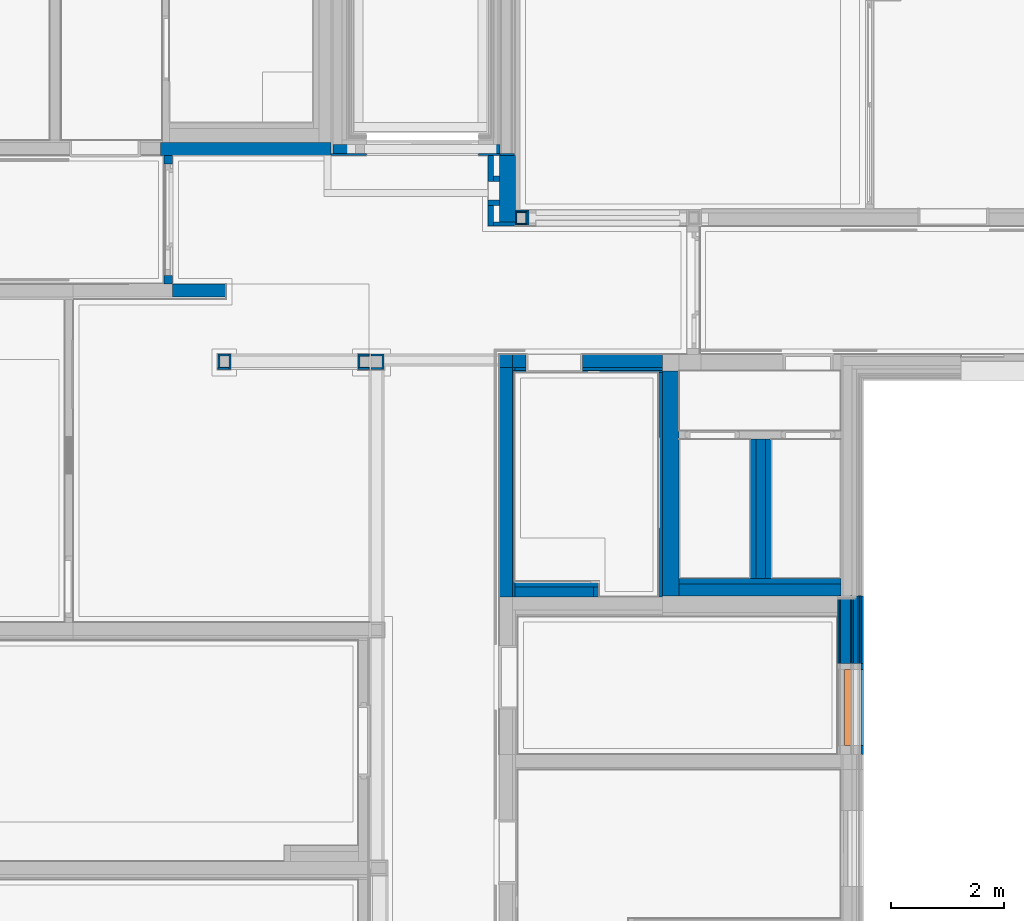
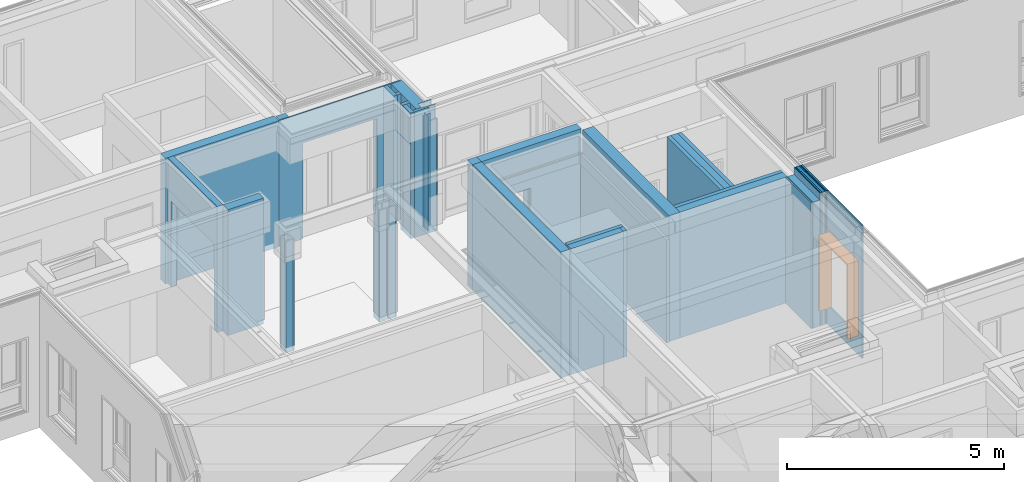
# One storey, part 29 of 222: 55 walls, 1 proxy, 7 openings.
"""IFC4 building model written with IfcOpenShell, lengths in metres."""

from ifc_helpers import new_model, entity, si_unit, converted_unit, derived_unit, frame, frame_2d, origin, origin_with_axes, place, context, subcontext, project, spatial, polyline, rectangle, outline, extrude, clip, bounded_halfspace, faceted_brep, material, element, fill, save


model = new_model("IFC4")

# Units and contexts
model_context = context("Model", 3, precision=1e-05, world=origin())
body_context = subcontext(model_context, "Body", "Model", "MODEL_VIEW")
ifc_project = project(units=[si_unit("LENGTHUNIT", "METRE"), si_unit("AREAUNIT", "SQUARE_METRE"), si_unit("VOLUMEUNIT", "CUBIC_METRE"), si_unit("MASSUNIT", "GRAM", prefix="KILO"), converted_unit("PLANEANGLEUNIT", "DEGREE", entity("IfcPlaneAngleMeasure", 0.0174532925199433), si_unit("PLANEANGLEUNIT", "RADIAN"), dimensions=[0, 0, 0, 0, 0, 0, 0]), derived_unit("THERMALTRANSMITTANCEUNIT", [(si_unit("POWERUNIT", "WATT"), 1), (si_unit("THERMODYNAMICTEMPERATUREUNIT", "KELVIN"), -1), (si_unit("LENGTHUNIT", "METRE"), -2)]), derived_unit("VOLUMETRICFLOWRATEUNIT", [(si_unit("LENGTHUNIT", "METRE"), 3), (converted_unit("TIMEUNIT", "hour", entity("IfcTimeMeasure", 3600.0), si_unit("TIMEUNIT", "SECOND"), dimensions=[0, 0, 1, 0, 0, 0, 0]), -1), (si_unit("LENGTHUNIT", "METRE"), -1)])], contexts=[model_context])

# Site, building, storey
site_placement = place(None, origin())
site = spatial("IfcSite", under=ifc_project, at=site_placement, Name="Psychiatrie Neubau Wunstorf", CompositionType="ELEMENT")
building_placement = place(site_placement, origin())
building = spatial("IfcBuilding", under=site, at=building_placement, Name="Neubau H2 Stationsgebäude", CompositionType="ELEMENT")
storey_placement = place(building_placement, frame((0.0, 0.0, 3.6)))
storey = spatial("IfcBuildingStorey", under=building, at=storey_placement, Name="H2 Ebene +1", CompositionType="ELEMENT", Elevation=3.6)

# Wall
ifc_material_1 = material(Name="WA-LB")
wall_1_placement = place(storey_placement, frame((37.8935, 24.1140036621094, 0.5)))
element("IfcWall", 1, at=wall_1_placement, inside=storey, material=ifc_material_1, Name="2x Gipsfaserplatte", context=body_context, shape_type="SweptSolid", body=[
    extrude(rectangle(XDim=0.254, YDim=0.036, at=frame_2d((0.127, 0.018), x_axis=(1.0, 0.0))), origin_with_axes(), (0.0, 0.0, 1.0), 3.05),
])

# Wall, opening
ifc_material_2 = material(Name="WA-LB")
wall_2_placement = place(storey_placement, frame((34.889, 24.1140036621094, 0.0)))
wall_2 = element("IfcWall", 2, at=wall_2_placement, inside=storey, material=ifc_material_2, Name="2x Gipsfaserplatte", context=body_context, shape_type="SweptSolid", body=[
    extrude(rectangle(XDim=3.0045, YDim=0.036, at=frame_2d((1.50225, 0.018), x_axis=(1.0, 0.0))), origin_with_axes(), (0.0, 0.0, 1.0), 3.55),
])
opening_1_placement = place(wall_2_placement, frame((0.637001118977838, 0.0, 0.0), z_axis=(0.0, 1.0, 0.0), x_axis=(0.0, 0.0, 1.0)))
element("IfcOpeningElement", 3, at=opening_1_placement, cuts=wall_2, Name="Türöffnung", ObjectType="Opening", context=body_context, shape_type="SweptSolid", body=[
    extrude(outline(polyline([(2.7, 1.98299888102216), (2.7, 0.0), (0.0, 0.0), (0.0, 1.98299888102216), (2.7, 1.98299888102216)])), origin_with_axes(), (0.0, 0.0, 1.0), 0.036),
])

ifc_material_3 = material(Name="WA-HD")
wall_3_placement = place(storey_placement, frame((34.925, 24.1500036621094, 0.0)))
wall_3 = element("IfcWall", 4, at=wall_3_placement, inside=storey, material=ifc_material_3, Name="Holzständer + Zwischendämmung", context=body_context, shape_type="Clipping", body=[
    clip(clip(clip(extrude(rectangle(XDim=2.9685, YDim=0.16, at=frame_2d((1.48425, 0.08), x_axis=(1.0, 0.0))), origin_with_axes(), (0.0, 0.0, 1.0), 3.55), bounded_halfspace(frame((0.327500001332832, 0.0799997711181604, 3.15), z_axis=(0.0, 0.0, -1.0), x_axis=(-0.999999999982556, -5.90662815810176e-06, 0.0)), True, origin_with_axes(), polyline([(0.405, 0.16), (0.250000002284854, 0.159999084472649), (0.250000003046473, 0.0), (0.405, 0.0), (0.405, 0.16)]))), bounded_halfspace(frame((1.76675, 0.08, 3.15), z_axis=(0.0, 0.0, -1.0), x_axis=(1.0, 0.0, 0.0)), True, origin_with_axes(), polyline([(0.565, 0.0), (2.9685, 0.0), (2.9685, 0.16), (0.565, 0.16), (0.565, 0.0)]))), bounded_halfspace(frame((0.485, 0.08, 0.5), z_axis=(0.0, 0.0, -1.0), x_axis=(0.0, -1.0, 0.0)), True, origin_with_axes(), polyline([(0.405, 0.16), (0.405, 0.0), (0.565, 0.0), (0.565, 0.16), (0.405, 0.16)]))),
])
opening_2_placement = place(wall_3_placement, frame((0.601001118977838, 0.0, 0.0), z_axis=(0.0, 1.0, 0.0), x_axis=(0.0, 0.0, 1.0)))
element("IfcOpeningElement", 5, at=opening_2_placement, cuts=wall_3, Name="Türöffnung", ObjectType="Opening", context=body_context, shape_type="SweptSolid", body=[
    extrude(outline(polyline([(2.7, 1.98299888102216), (2.7, 0.0), (0.0, 0.0), (0.0, 1.98299888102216), (2.7, 1.98299888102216)])), origin_with_axes(), (0.0, 0.0, 1.0), 0.16),
])

# Walls
ifc_material_4 = material(Name="WA-LB")
wall_4_placement = place(storey_placement, frame((43.8800000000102, 16.3005060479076, 0.0), z_axis=(0.0, 0.0, 1.0), x_axis=(0.0, -1.0, 0.0)))
element("IfcWall", 6, at=wall_4_placement, inside=storey, material=ifc_material_4, Name="2x Gipsfaserplatte", context=body_context, shape_type="SweptSolid", body=[
    extrude(rectangle(XDim=1.19550635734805, YDim=0.036, at=frame_2d((0.597753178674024, 0.018), x_axis=(1.0, 0.0))), origin_with_axes(), (0.0, 0.0, 1.0), 3.55),
])
ifc_material_5 = material(Name="WA-LB")
wall_5_placement = place(storey_placement, frame((43.9160000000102, 16.3005060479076, 0.0), z_axis=(0.0, 0.0, 1.0), x_axis=(0.0, -1.0, 0.0)))
element("IfcWall", 7, at=wall_5_placement, inside=storey, material=ifc_material_5, Name="2x Gipsfaserplatte", context=body_context, shape_type="SweptSolid", body=[
    extrude(rectangle(XDim=1.19550635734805, YDim=0.018, at=frame_2d((0.597753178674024, 0.009), x_axis=(1.0, 0.0))), origin_with_axes(), (0.0, 0.0, 1.0), 3.55),
])
ifc_material_6 = material(Name="WA-DL")
wall_6_placement = place(storey_placement, frame((43.9340000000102, 16.3005060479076, 0.0), z_axis=(0.0, 0.0, 1.0), x_axis=(0.0, -1.0, 0.0)))
element("IfcWall", 8, at=wall_6_placement, inside=storey, material=ifc_material_6, Name="Holzständer + Zwischendämmung", context=body_context, shape_type="SweptSolid", body=[
    extrude(rectangle(XDim=1.19550635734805, YDim=0.18, at=frame_2d((0.597753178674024, 0.09), x_axis=(1.0, 0.0))), origin_with_axes(), (0.0, 0.0, 1.0), 3.55),
])
ifc_material_7 = material(Name="WA-LB")
wall_7_placement = place(storey_placement, frame((44.1140000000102, 16.3005060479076, 0.0), z_axis=(0.0, 0.0, 1.0), x_axis=(0.0, -1.0, 0.0)))
element("IfcWall", 9, at=wall_7_placement, inside=storey, material=ifc_material_7, context=body_context, shape_type="SweptSolid", body=[
    extrude(rectangle(XDim=1.19550635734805, YDim=0.019, at=frame_2d((0.597753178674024, 0.0095), x_axis=(1.0, 0.0))), origin_with_axes(), (0.0, 0.0, 1.0), 3.75),
])
ifc_material_8 = material(Name="WA-LB")
wall_8_placement = place(storey_placement, frame((44.1330000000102, 16.3005060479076, 0.0), z_axis=(0.0, 0.0, 1.0), x_axis=(0.0, -1.0, 0.0)))
element("IfcWall", 10, at=wall_8_placement, inside=storey, material=ifc_material_8, context=body_context, shape_type="SweptSolid", body=[
    extrude(rectangle(XDim=1.19550635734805, YDim=0.036, at=frame_2d((0.597753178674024, 0.018), x_axis=(1.0, 0.0))), origin_with_axes(), (0.0, 0.0, 1.0), 3.75),
])
ifc_material_9 = material(Name="WA-DL")
wall_9_placement = place(storey_placement, frame((44.1690000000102, 16.3005060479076, 0.0), z_axis=(0.0, 0.0, 1.0), x_axis=(0.0, -1.0, 0.0)))
element("IfcWall", 11, at=wall_9_placement, inside=storey, material=ifc_material_9, Name="Staffel + Zwischendämmung", context=body_context, shape_type="SweptSolid", body=[
    extrude(rectangle(XDim=1.19550635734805, YDim=0.08, at=frame_2d((0.597753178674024, 0.04), x_axis=(1.0, 0.0))), origin_with_axes(), (0.0, 0.0, 1.0), 3.75),
])
ifc_material_10 = material(Name="WA-KL")
wall_10_placement = place(storey_placement, frame((44.2490000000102, 16.3005060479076, 0.0), z_axis=(0.0, 0.0, 1.0), x_axis=(0.0, -1.0, 0.0)))
element("IfcWall", 12, at=wall_10_placement, inside=storey, material=ifc_material_10, Name="Konterlattung", context=body_context, shape_type="SweptSolid", body=[
    extrude(rectangle(XDim=1.19550635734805, YDim=0.025, at=frame_2d((0.597753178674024, 0.0125), x_axis=(1.0, 0.0))), origin_with_axes(), (0.0, 0.0, 1.0), 3.75),
])
ifc_material_11 = material(Name="WA-TL")
wall_11_placement = place(storey_placement, frame((44.2740000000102, 16.3005060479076, 0.0), z_axis=(0.0, 0.0, 1.0), x_axis=(0.0, -1.0, 0.0)))
element("IfcWall", 13, at=wall_11_placement, inside=storey, material=ifc_material_11, Name="Traglattung", context=body_context, shape_type="SweptSolid", body=[
    extrude(rectangle(XDim=1.19550635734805, YDim=0.025, at=frame_2d((0.597753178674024, 0.0125), x_axis=(1.0, 0.0))), origin_with_axes(), (0.0, 0.0, 1.0), 3.75),
])
ifc_material_12 = material(Name="WA-HS")
wall_12_placement = place(storey_placement, frame((44.2990000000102, 16.3005060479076, 0.0), z_axis=(0.0, 0.0, 1.0), x_axis=(0.0, -1.0, 0.0)))
element("IfcWall", 14, at=wall_12_placement, inside=storey, material=ifc_material_12, Name="Holzschindel", context=body_context, shape_type="SweptSolid", body=[
    extrude(rectangle(XDim=1.19550635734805, YDim=0.042, at=frame_2d((0.597753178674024, 0.021), x_axis=(1.0, 0.0))), origin_with_axes(), (0.0, 0.0, 1.0), 3.75),
])

# Wall, opening, proxy
ifc_material_13 = material(Name="WA-HS")
wall_13_placement = place(storey_placement, frame((44.2990000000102, 15.1049996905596, 0.0), z_axis=(0.0, 0.0, 1.0), x_axis=(0.0, -1.0, 0.0)))
wall_13 = element("IfcWall", 15, at=wall_13_placement, inside=storey, material=ifc_material_13, Name="Holzschindel", context=body_context, shape_type="SweptSolid", body=[
    extrude(rectangle(XDim=1.6155030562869, YDim=0.042, at=frame_2d((0.80775152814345, 0.021), x_axis=(1.0, 0.0))), origin_with_axes(), (0.0, 0.0, 1.0), 3.75),
])
opening_3_placement = place(wall_13_placement, frame((1.46000029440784, 0.042, 0.55), z_axis=(0.0, -1.0, 0.0), x_axis=(0.0, 0.0, 1.0)))
opening_3 = element("IfcOpeningElement", 16, at=opening_3_placement, cuts=wall_13, Name="Fensteröffnung", ObjectType="Opening", context=body_context, shape_type="SweptSolid", body=[
    extrude(outline(polyline([(2.115, 1.35), (2.115, 0.0), (0.0, 0.0), (0.0, 1.35), (2.115, 1.35)])), origin_with_axes(), (0.0, 0.0, 1.0), 0.042),
])
ifc_material_14 = material(Name="WA-HS")
proxy_placement = place(opening_3_placement, frame((0.0, 0.0, 0.335)))
proxy = element("IfcBuildingElementProxy", 17, at=proxy_placement, inside=storey, material=ifc_material_14, context=body_context, shape_type="Brep", body=[
    faceted_brep([(0.0, 1.35, 0.0), (0.0, 1.35, -0.335), (2.115, 1.35, -0.335), (2.115, 1.35, 0.0), (2.115, 0.0, -0.335), (2.115, 0.0, 0.0), (0.0, 1.3, -0.335), (0.0, 1.3, 0.0), (0.0, 0.0, 0.0), (0.0, 0.05, 0.0), (2.065, 0.05, 0.0), (2.065, 1.3, 0.0), (2.065, 1.3, -0.335), (2.065, 0.05, -0.335), (0.0, 0.05, -0.335), (0.0, 0.0, -0.335)], [[[0, 1, 2, 3]], [[2, 4, 5, 3]], [[6, 1, 0, 7]], [[7, 0, 3, 5, 8, 9, 10, 11]], [[1, 6, 12, 13, 14, 15, 4, 2]], [[6, 7, 11, 12]], [[15, 8, 5, 4]], [[15, 14, 9, 8]], [[9, 14, 13, 10]], [[10, 13, 12, 11]]], orient=[[False], [False], [False], [False], [False], [False], [False], [False], [False], [False]]),
])
fill(opening_3, proxy)

# Walls
ifc_material_15 = material(Name="WI-HW 60")
wall_14_placement = place(storey_placement, frame((37.879, 24.1140036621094, 0.0), z_axis=(0.0, 0.0, 1.0), x_axis=(0.0, -1.0, 0.0)))
element("IfcWall", 18, at=wall_14_placement, inside=storey, material=ifc_material_15, context=body_context, shape_type="Clipping", body=[
    clip(extrude(rectangle(XDim=1.17550367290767, YDim=0.29, at=frame_2d((0.587751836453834, 0.145), x_axis=(1.0, 0.0))), origin_with_axes(), (0.0, 0.0, 1.0), 3.55), bounded_halfspace(frame((1.09525235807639, 0.208000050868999, 3.25), z_axis=(0.0, 0.0, -1.0), x_axis=(0.0, 1.0, 0.0)), True, origin_with_axes(), polyline([(1.17550367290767, 0.126000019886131), (1.17550367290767, 0.29), (1.01500112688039, 0.29), (1.01500095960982, 0.126000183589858), (1.17550367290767, 0.126000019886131)]))),
])
ifc_material_16 = material(Name="WI-HW 60")
wall_15_placement = place(storey_placement, frame((40.7790000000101, 20.2959980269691, 0.0), z_axis=(0.0, 0.0, 1.0), x_axis=(0.0, -1.0, 0.0)))
element("IfcWall", 19, at=wall_15_placement, inside=storey, material=ifc_material_16, context=body_context, shape_type="SweptSolid", body=[
    extrude(rectangle(XDim=3.99549197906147, YDim=0.29, at=frame_2d((1.99774598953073, 0.145), x_axis=(1.0, 0.0))), origin_with_axes(), (0.0, 0.0, 1.0), 3.55),
])

# Wall, opening
ifc_material_17 = material(Name="WI-LB")
wall_16_placement = place(storey_placement, frame((38.1145, 20.2639980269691, 0.0)))
wall_16 = element("IfcWall", 20, at=wall_16_placement, inside=storey, material=ifc_material_17, context=body_context, shape_type="SweptSolid", body=[
    extrude(rectangle(XDim=2.66450000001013, YDim=0.04, at=frame_2d((1.33225000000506, 0.02), x_axis=(1.0, 0.0))), origin_with_axes(), (0.0, 0.0, 1.0), 2.9),
])
opening_4_placement = place(wall_16_placement, frame((0.235500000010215, 0.0, 0.0), z_axis=(0.0, 1.0, 0.0), x_axis=(0.0, 0.0, 1.0)))
element("IfcOpeningElement", 21, at=opening_4_placement, cuts=wall_16, Name="Türöffnung", ObjectType="Opening", context=body_context, shape_type="SweptSolid", body=[
    extrude(outline(polyline([(2.41, 1.01), (2.41, 0.0), (0.0, 0.0), (0.0, 1.01), (2.41, 1.01)])), origin_with_axes(), (0.0, 0.0, 1.0), 0.04),
])

ifc_material_18 = material(Name="Installationsraum")
wall_17_placement = place(storey_placement, frame((38.1545, 20.3039980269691, 0.0)))
wall_17 = element("IfcWall", 22, at=wall_17_placement, inside=storey, material=ifc_material_18, context=body_context, shape_type="SweptSolid", body=[
    extrude(rectangle(XDim=2.62450000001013, YDim=0.05, at=frame_2d((1.31225000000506, 0.025), x_axis=(1.0, 0.0))), origin_with_axes(), (0.0, 0.0, 1.0), 2.9),
])
opening_5_placement = place(wall_17_placement, frame((0.195500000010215, 0.0, 0.0), z_axis=(0.0, 1.0, 0.0), x_axis=(0.0, 0.0, 1.0)))
element("IfcOpeningElement", 23, at=opening_5_placement, cuts=wall_17, Name="Türöffnung", ObjectType="Opening", context=body_context, shape_type="SweptSolid", body=[
    extrude(outline(polyline([(2.41, 1.01), (2.41, 0.0), (0.0, 0.0), (0.0, 1.01), (2.41, 1.01)])), origin_with_axes(), (0.0, 0.0, 1.0), 0.05),
])

ifc_material_19 = material(Name="WI-HW 60")
wall_18_placement = place(storey_placement, frame((38.1145, 20.3539980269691, 0.0)))
wall_18 = element("IfcWall", 24, at=wall_18_placement, inside=storey, material=ifc_material_19, context=body_context, shape_type="SweptSolid", body=[
    extrude(rectangle(XDim=2.66450000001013, YDim=0.232, at=frame_2d((1.33225000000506, 0.116), x_axis=(1.0, 0.0))), origin_with_axes(), (0.0, 0.0, 1.0), 3.55),
])
opening_6_placement = place(wall_18_placement, frame((0.235500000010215, 0.0, 0.0), z_axis=(0.0, 1.0, 0.0), x_axis=(0.0, 0.0, 1.0)))
element("IfcOpeningElement", 25, at=opening_6_placement, cuts=wall_18, Name="Türöffnung", ObjectType="Opening", context=body_context, shape_type="SweptSolid", body=[
    extrude(outline(polyline([(2.41, 1.01), (2.41, 0.0), (0.0, 0.0), (0.0, 1.01), (2.41, 1.01)])), origin_with_axes(), (0.0, 0.0, 1.0), 0.232),
])

# Walls
ifc_material_20 = material(Name="WI-LB")
wall_19_placement = place(storey_placement, frame((38.1545, 16.2820060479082, 0.0), z_axis=(0.0, 0.0, 1.0), x_axis=(0.0, 1.0, 0.0)))
element("IfcWall", 26, at=wall_19_placement, inside=storey, material=ifc_material_20, context=body_context, shape_type="SweptSolid", body=[
    extrude(rectangle(XDim=3.9819919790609, YDim=0.04, at=frame_2d((1.99099598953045, 0.02), x_axis=(1.0, 0.0))), origin_with_axes(), (0.0, 0.0, 1.0), 2.9),
    extrude(rectangle(XDim=0.05, YDim=0.04, at=frame_2d((0.025, 0.02), x_axis=(1.0, 0.0))), frame((4.0219919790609, 0.0, 0.0), z_axis=(0.0, 0.0, 1.0), x_axis=(1.0, 0.0, 0.0)), (0.0, 0.0, 1.0), 2.9),
])
ifc_material_21 = material(Name="WI-HW 60")
wall_20_placement = place(storey_placement, frame((38.1145, 16.2820060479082, 0.0), z_axis=(0.0, 0.0, 1.0), x_axis=(0.0, 1.0, 0.0)))
element("IfcWall", 27, at=wall_20_placement, inside=storey, material=ifc_material_21, context=body_context, shape_type="SweptSolid", body=[
    extrude(rectangle(XDim=4.0719919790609, YDim=0.232, at=frame_2d((2.03599598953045, 0.116), x_axis=(1.0, 0.0))), origin_with_axes(), (0.0, 0.0, 1.0), 3.55),
])
ifc_material_22 = material(Name="WI-HW 60")
wall_21_placement = place(storey_placement, frame((38.169, 23.0989933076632, 0.0), z_axis=(0.0, 0.0, 1.0), x_axis=(0.0, -1.0, 0.0)))
element("IfcWall", 28, at=wall_21_placement, inside=storey, material=ifc_material_22, context=body_context, shape_type="SweptSolid", body=[
    extrude(rectangle(XDim=0.18, YDim=0.019, at=frame_2d((0.09, 0.0095), x_axis=(1.0, 0.0))), origin_with_axes(), (0.0, 0.0, 1.0), 3.25),
])
ifc_material_23 = material(Name="WI-GKF")
wall_22_placement = place(storey_placement, frame((35.3739975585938, 20.560998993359, 0.0), z_axis=(0.0, 0.0, 1.0), x_axis=(0.0, -1.0, 0.0)))
element("IfcWall", 29, at=wall_22_placement, inside=storey, material=ifc_material_23, context=body_context, shape_type="SweptSolid", body=[
    extrude(rectangle(XDim=0.210001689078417, YDim=0.036, at=frame_2d((0.105000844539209, 0.018), x_axis=(1.0, 0.0))), origin_with_axes(), (0.0, 0.0, 1.0), 3.15),
])
ifc_material_24 = material(Name="WI-GKF")
wall_23_placement = place(storey_placement, frame((35.8, 20.5919956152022, 0.0), z_axis=(0.0, 0.0, 1.0), x_axis=(-1.0, 0.0, 0.0)))
element("IfcWall", 30, at=wall_23_placement, inside=storey, material=ifc_material_24, context=body_context, shape_type="SweptSolid", body=[
    extrude(rectangle(XDim=0.2, YDim=0.036, at=frame_2d((0.1, 0.018), x_axis=(1.0, 0.0))), origin_with_axes(), (0.0, 0.0, 1.0), 3.15),
])
ifc_material_25 = material(Name="WI-GKF")
wall_24_placement = place(storey_placement, frame((35.6, 20.3199956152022, 0.0)))
element("IfcWall", 31, at=wall_24_placement, inside=storey, material=ifc_material_25, context=body_context, shape_type="SweptSolid", body=[
    extrude(rectangle(XDim=0.2, YDim=0.036, at=frame_2d((0.1, 0.018), x_axis=(1.0, 0.0))), origin_with_axes(), (0.0, 0.0, 1.0), 3.15),
])
ifc_material_26 = material(Name="WI-GKF")
wall_25_placement = place(storey_placement, frame((35.374, 20.3199956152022, 0.0)))
element("IfcWall", 32, at=wall_25_placement, inside=storey, material=ifc_material_26, context=body_context, shape_type="SweptSolid", body=[
    extrude(outline(polyline([(0.0, 0.0), (0.196, 0.0), (0.196, 0.036), (0.0359975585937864, 0.036), (0.0359975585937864, 0.0310016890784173), (0.0, 0.0310016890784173), (0.0, 0.0)])), origin_with_axes(), (0.0, 0.0, 1.0), 3.15),
])
ifc_material_27 = material(Name="WI-GKF")
wall_26_placement = place(storey_placement, frame((35.57, 20.5919973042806, 0.0), z_axis=(0.0, 0.0, 1.0), x_axis=(-1.0, 0.0, 0.0)))
element("IfcWall", 33, at=wall_26_placement, inside=storey, material=ifc_material_27, context=body_context, shape_type="SweptSolid", body=[
    extrude(outline(polyline([(-0.196002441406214, -0.036), (0.0, -0.036), (0.0, -0.00500168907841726), (-0.036, -0.00500168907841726), (-0.036, 0.0), (-0.196002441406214, 0.0), (-0.196002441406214, -0.036)])), frame((0.196002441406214, 0.036, 0.0), z_axis=(0.0, 0.0, 1.0), x_axis=(1.0, 0.0, 0.0)), (0.0, 0.0, 1.0), 3.15),
])
ifc_material_28 = material(Name="WI-GKF")
wall_27_placement = place(storey_placement, frame((35.836, 20.3199956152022, 0.0), z_axis=(0.0, 0.0, 1.0), x_axis=(0.0, 1.0, 0.0)))
element("IfcWall", 34, at=wall_27_placement, inside=storey, material=ifc_material_28, context=body_context, shape_type="SweptSolid", body=[
    extrude(rectangle(XDim=0.272, YDim=0.036, at=frame_2d((0.136, 0.018), x_axis=(1.0, 0.0))), origin_with_axes(), (0.0, 0.0, 1.0), 3.15),
])
ifc_material_29 = material(Name="WI-GKF")
wall_28_placement = place(storey_placement, frame((32.883, 20.555998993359, 0.0), z_axis=(0.0, 0.0, 1.0), x_axis=(0.0, -1.0, 0.0)))
element("IfcWall", 35, at=wall_28_placement, inside=storey, material=ifc_material_29, context=body_context, shape_type="SweptSolid", body=[
    extrude(rectangle(XDim=0.205001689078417, YDim=0.0359956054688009, at=frame_2d((0.102500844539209, 0.0179978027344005), x_axis=(1.0, 0.0))), origin_with_axes(), (0.0, 0.0, 1.0), 3.15),
])
ifc_material_30 = material(Name="WI-GKF")
wall_29_placement = place(storey_placement, frame((33.0789956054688, 20.591998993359, 0.0), z_axis=(0.0, 0.0, 1.0), x_axis=(-1.0, 0.0, 0.0)))
element("IfcWall", 36, at=wall_29_placement, inside=storey, material=ifc_material_30, context=body_context, shape_type="SweptSolid", body=[
    extrude(rectangle(XDim=0.195995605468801, YDim=0.036, at=frame_2d((0.0979978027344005, 0.018), x_axis=(1.0, 0.0))), origin_with_axes(), (0.0, 0.0, 1.0), 3.15),
])
ifc_material_31 = material(Name="WI-GKF")
wall_30_placement = place(storey_placement, frame((32.883, 20.3199973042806, 0.0)))
element("IfcWall", 37, at=wall_30_placement, inside=storey, material=ifc_material_31, context=body_context, shape_type="SweptSolid", body=[
    extrude(outline(polyline([(0.0, 0.0), (0.195995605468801, 0.0), (0.195995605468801, 0.036), (0.0359956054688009, 0.036), (0.0359956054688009, 0.031), (0.0, 0.031), (0.0, 0.0)])), origin_with_axes(), (0.0, 0.0, 1.0), 3.15),
])
ifc_material_32 = material(Name="WI-GKF")
wall_31_placement = place(storey_placement, frame((33.1149956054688, 20.3199973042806, 0.0), z_axis=(0.0, 0.0, 1.0), x_axis=(0.0, 1.0, 0.0)))
element("IfcWall", 38, at=wall_31_placement, inside=storey, material=ifc_material_32, context=body_context, shape_type="SweptSolid", body=[
    extrude(rectangle(XDim=0.272001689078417, YDim=0.036, at=frame_2d((0.136000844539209, 0.018), x_axis=(1.0, 0.0))), origin_with_axes(), (0.0, 0.0, 1.0), 3.15),
])
ifc_material_33 = material(Name="WI-HW 60")
wall_32_placement = place(storey_placement, frame((34.889, 24.3495, 0.0), z_axis=(0.0, 0.0, 1.0), x_axis=(-1.0, -1.20422999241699e-15, 0.0)))
element("IfcWall", 39, at=wall_32_placement, inside=storey, material=ifc_material_33, context=body_context, shape_type="SweptSolid", body=[
    extrude(rectangle(XDim=3.02099999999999, YDim=0.232, at=frame_2d((1.5105, 0.116), x_axis=(1.0, 0.0))), origin_with_axes(), (0.0, 0.0, 1.0), 3.55),
])
ifc_material_34 = material(Name="WI-HW 60")
wall_33_placement = place(storey_placement, frame((38.1145, 20.5859980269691, 0.0), z_axis=(0.0, 0.0, 1.0), x_axis=(-1.0, 0.0, 0.0)))
element("IfcWall", 40, at=wall_33_placement, inside=storey, material=ifc_material_34, context=body_context, shape_type="SweptSolid", body=[
    extrude(rectangle(XDim=0.232000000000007, YDim=0.232, at=frame_2d((0.116000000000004, 0.116), x_axis=(1.0, 0.0))), origin_with_axes(), (0.0, 0.0, 1.0), 3.55),
])
ifc_material_35 = material(Name="WI-VS")
wall_34_placement = place(storey_placement, frame((39.554, 16.4570060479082, 0.0), z_axis=(0.0, 0.0, 1.0), x_axis=(0.0, -1.0, 0.0)))
element("IfcWall", 41, at=wall_34_placement, inside=storey, material=ifc_material_35, context=body_context, shape_type="SweptSolid", body=[
    extrude(rectangle(XDim=0.175, YDim=0.1, at=frame_2d((0.0875, 0.05), x_axis=(1.0, 0.0))), origin_with_axes(), (0.0, 0.0, 1.0), 3.55),
])
ifc_material_36 = material(Name="WI-LB")
wall_35_placement = place(storey_placement, frame((37.679, 24.1140036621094, 0.0), z_axis=(0.0, 0.0, 1.0), x_axis=(0.0, -1.0, 0.0)))
element("IfcWall", 42, at=wall_35_placement, inside=storey, material=ifc_material_36, context=body_context, shape_type="SweptSolid", body=[
    extrude(rectangle(XDim=0.4625, YDim=0.1, at=frame_2d((0.23125, 0.05), x_axis=(1.0, 0.0))), origin_with_axes(), (0.0, 0.0, 1.0), 3.55),
])
ifc_material_37 = material(Name="WI-LB")
wall_36_placement = place(storey_placement, frame((37.779, 23.6515036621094, 0.0)))
element("IfcWall", 43, at=wall_36_placement, inside=storey, material=ifc_material_37, context=body_context, shape_type="SweptSolid", body=[
    extrude(rectangle(XDim=0.1, YDim=0.1, at=frame_2d((0.05, 0.05), x_axis=(1.0, 0.0))), origin_with_axes(), (0.0, 0.0, 1.0), 3.55),
])
ifc_material_38 = material(Name="WI-LB")
wall_37_placement = place(storey_placement, frame((37.879, 23.3264990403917, 0.0), z_axis=(0.0, 0.0, 1.0), x_axis=(-1.0, 0.0, 0.0)))
element("IfcWall", 44, at=wall_37_placement, inside=storey, material=ifc_material_38, context=body_context, shape_type="SweptSolid", body=[
    extrude(rectangle(XDim=0.2, YDim=0.1, at=frame_2d((0.1, 0.05), x_axis=(1.0, 0.0))), origin_with_axes(), (0.0, 0.0, 1.0), 3.55),
])
ifc_material_39 = material(Name="WI-LB")
wall_38_placement = place(storey_placement, frame((37.679, 23.2264990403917, 0.0), z_axis=(0.0, 0.0, 1.0), x_axis=(0.0, -1.0, 0.0)))
element("IfcWall", 45, at=wall_38_placement, inside=storey, material=ifc_material_39, context=body_context, shape_type="SweptSolid", body=[
    extrude(rectangle(XDim=0.362999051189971, YDim=0.1, at=frame_2d((0.181499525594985, 0.05), x_axis=(1.0, 0.0))), origin_with_axes(), (0.0, 0.0, 1.0), 3.55),
])
ifc_material_40 = material(Name="WI-LB")
wall_39_placement = place(storey_placement, frame((37.779, 22.8634999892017, 0.0)))
element("IfcWall", 46, at=wall_39_placement, inside=storey, material=ifc_material_40, context=body_context, shape_type="Clipping", body=[
    clip(extrude(rectangle(XDim=0.39, YDim=0.075, at=frame_2d((0.195, 0.0375), x_axis=(1.0, 0.0))), origin_with_axes(), (0.0, 0.0, 1.0), 3.55), bounded_halfspace(frame((0.308000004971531, 0.0652513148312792, 3.25), z_axis=(0.0, 0.0, -1.0), x_axis=(-1.01994349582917e-06, -0.99999999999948, 0.0)), True, origin_with_axes(), polyline([(0.226000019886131, 0.075), (0.226, 0.0555027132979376), (0.39, 0.0555025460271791), (0.39, 0.075), (0.226000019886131, 0.075)]))),
])
ifc_material_41 = material(Name="Installationsraum")
wall_40_placement = place(storey_placement, frame((38.154, 16.2820060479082, 0.0)))
element("IfcWall", 47, at=wall_40_placement, inside=storey, material=ifc_material_41, context=body_context, shape_type="Clipping", body=[
    clip(extrude(rectangle(XDim=1.4, YDim=0.175, at=frame_2d((0.7, 0.0875), x_axis=(1.0, 0.0))), origin_with_axes(), (0.0, 0.0, 1.0), 3.55), bounded_halfspace(frame((0.00025, 0.0875, 2.9), z_axis=(0.0, 0.0, 1.0), x_axis=(0.0, 1.0, 0.0)), True, origin_with_axes(), polyline([(0.0005, 0.0), (0.0005, 0.175), (0.0, 0.175), (0.0, 0.0), (0.0005, 0.0)]))),
])
ifc_material_42 = material(Name="WI-VS")
wall_41_placement = place(storey_placement, frame((38.154, 16.4570060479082, 0.0)))
element("IfcWall", 48, at=wall_41_placement, inside=storey, material=ifc_material_42, context=body_context, shape_type="Clipping", body=[
    clip(extrude(rectangle(XDim=1.5, YDim=0.1, at=frame_2d((0.75, 0.05), x_axis=(1.0, 0.0))), origin_with_axes(), (0.0, 0.0, 1.0), 3.55), bounded_halfspace(frame((0.00025, 0.05, 2.9), z_axis=(0.0, 0.0, 1.0), x_axis=(0.0, 1.0, 0.0)), True, origin_with_axes(), polyline([(0.0005, 0.0), (0.0005, 0.1), (0.0, 0.1), (0.0, 0.0), (0.0005, 0.0)]))),
])
ifc_material_43 = material(Name="WI-VS")
wall_42_placement = place(storey_placement, frame((40.7040000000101, 20.2639980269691, 0.0), z_axis=(0.0, 0.0, 1.0), x_axis=(0.0, -1.0, 0.0)))
element("IfcWall", 49, at=wall_42_placement, inside=storey, material=ifc_material_43, context=body_context, shape_type="SweptSolid", body=[
    extrude(rectangle(XDim=3.98149197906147, YDim=0.075, at=frame_2d((1.99074598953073, 0.0375), x_axis=(1.0, 0.0))), origin_with_axes(), (0.0, 0.0, 1.0), 2.9),
])
ifc_material_44 = material(Name="Installationsraum")
wall_43_placement = place(storey_placement, frame((41.0690000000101, 16.3005060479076, 0.0)))
element("IfcWall", 50, at=wall_43_placement, inside=storey, material=ifc_material_44, context=body_context, shape_type="SweptSolid", body=[
    extrude(rectangle(XDim=2.87000000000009, YDim=0.21, at=frame_2d((1.43500000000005, 0.105), x_axis=(1.0, 0.0))), origin_with_axes(), (0.0, 0.0, 1.0), 3.55),
])
ifc_material_45 = material(Name="WI-VS")
wall_44_placement = place(storey_placement, frame((41.0690000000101, 16.5105060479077, 0.0)))
element("IfcWall", 51, at=wall_44_placement, inside=storey, material=ifc_material_45, context=body_context, shape_type="SweptSolid", body=[
    extrude(rectangle(XDim=2.87000000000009, YDim=0.1, at=frame_2d((1.43500000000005, 0.05), x_axis=(1.0, 0.0))), origin_with_axes(), (0.0, 0.0, 1.0), 3.55),
])
ifc_material_46 = material(Name="WI-IW")
wall_45_placement = place(storey_placement, frame((42.3325000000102, 19.0850060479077, 0.0), z_axis=(0.0, 0.0, 1.0), x_axis=(0.0, -1.0, 0.0)))
element("IfcWall", 52, at=wall_45_placement, inside=storey, material=ifc_material_46, context=body_context, shape_type="SweptSolid", body=[
    extrude(rectangle(XDim=2.4745, YDim=0.1, at=frame_2d((1.23725, 0.05), x_axis=(1.0, 0.0))), origin_with_axes(), (0.0, 0.0, 1.0), 3.55),
])
ifc_material_47 = material(Name="Installationsraum")
wall_46_placement = place(storey_placement, frame((42.4325000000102, 19.0850060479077, 0.0), z_axis=(0.0, 0.0, 1.0), x_axis=(0.0, -1.0, 0.0)))
element("IfcWall", 53, at=wall_46_placement, inside=storey, material=ifc_material_47, context=body_context, shape_type="SweptSolid", body=[
    extrude(rectangle(XDim=2.4745, YDim=0.175, at=frame_2d((1.23725, 0.0875), x_axis=(1.0, 0.0))), origin_with_axes(), (0.0, 0.0, 1.0), 3.55),
])
ifc_material_48 = material(Name="WI-IW")
wall_47_placement = place(storey_placement, frame((42.6075000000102, 19.0850060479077, 0.0), z_axis=(0.0, 0.0, 1.0), x_axis=(0.0, -1.0, 0.0)))
element("IfcWall", 54, at=wall_47_placement, inside=storey, material=ifc_material_48, context=body_context, shape_type="SweptSolid", body=[
    extrude(rectangle(XDim=2.4745, YDim=0.1, at=frame_2d((1.23725, 0.05), x_axis=(1.0, 0.0))), origin_with_axes(), (0.0, 0.0, 1.0), 3.55),
])

# Wall, opening
ifc_material_49 = material(Name="WI-LB")
wall_48_placement = place(storey_placement, frame((32.083, 21.8360000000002, 0.0), z_axis=(0.0, 0.0, 1.0), x_axis=(0.0, 1.0, 0.0)))
wall_48 = element("IfcWall", 55, at=wall_48_placement, inside=storey, material=ifc_material_49, context=body_context, shape_type="SweptSolid", body=[
    extrude(rectangle(XDim=2.28149999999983, YDim=0.155, at=frame_2d((1.14074999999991, 0.0775), x_axis=(1.0, 0.0))), origin_with_axes(), (0.0, 0.0, 1.0), 3.55),
])
opening_7_placement = place(wall_48_placement, frame((2.12650000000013, 0.155, 0.0), z_axis=(0.0, -1.0, 0.0), x_axis=(0.0, 0.0, 1.0)))
element("IfcOpeningElement", 56, at=opening_7_placement, cuts=wall_48, Name="Türöffnung", ObjectType="Opening", context=body_context, shape_type="SweptSolid", body=[
    extrude(outline(polyline([(2.41, 1.9715), (2.41, 0.0), (0.0, 0.0), (0.0, 1.9715), (2.41, 1.9715)])), origin_with_axes(), (0.0, 0.0, 1.0), 0.155),
])

# Walls
ifc_material_50 = material(Name="WI-GKF")
wall_49_placement = place(storey_placement, frame((38.367, 23.1539933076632, 0.0), z_axis=(0.0, 0.0, 1.0), x_axis=(-1.0, 0.0, 0.0)))
element("IfcWall", 57, at=wall_49_placement, inside=storey, material=ifc_material_50, context=body_context, shape_type="SweptSolid", body=[
    extrude(rectangle(XDim=0.198, YDim=0.036, at=frame_2d((0.099, 0.018), x_axis=(1.0, 0.0))), origin_with_axes(), (0.0, 0.0, 1.0), 3.15),
])
ifc_material_51 = material(Name="WI-HW 60")
wall_50_placement = place(storey_placement, frame((38.348, 23.1179933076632, 0.0), z_axis=(0.0, 0.0, 1.0), x_axis=(-1.0, 0.0, 0.0)))
element("IfcWall", 58, at=wall_50_placement, inside=storey, material=ifc_material_51, context=body_context, shape_type="SweptSolid", body=[
    extrude(rectangle(XDim=0.179, YDim=0.019, at=frame_2d((0.0895, 0.0095), x_axis=(1.0, 0.0))), origin_with_axes(), (0.0, 0.0, 1.0), 3.55),
])
ifc_material_52 = material(Name="WI-GKF")
wall_51_placement = place(storey_placement, frame((38.403, 22.8639933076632, 0.0), z_axis=(0.0, 0.0, 1.0), x_axis=(0.0, 1.0, 0.0)))
element("IfcWall", 59, at=wall_51_placement, inside=storey, material=ifc_material_52, context=body_context, shape_type="SweptSolid", body=[
    extrude(rectangle(XDim=0.29, YDim=0.036, at=frame_2d((0.145, 0.018), x_axis=(1.0, 0.0))), origin_with_axes(), (0.0, 0.0, 1.0), 3.15),
])
ifc_material_53 = material(Name="WI-HW 60")
wall_52_placement = place(storey_placement, frame((38.367, 22.8999933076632, 0.0), z_axis=(0.0, 0.0, 1.0), x_axis=(0.0, 1.0, 0.0)))
element("IfcWall", 60, at=wall_52_placement, inside=storey, material=ifc_material_53, context=body_context, shape_type="Clipping", body=[
    clip(extrude(rectangle(XDim=0.218, YDim=0.019, at=frame_2d((0.109, 0.0095), x_axis=(1.0, 0.0))), origin_with_axes(), (0.0, 0.0, 1.0), 3.55), bounded_halfspace(frame((0.109009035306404, 0.0095, 3.25), z_axis=(0.0, 0.0, -1.0), x_axis=(0.0, -1.0, 0.0)), True, origin_with_axes(), polyline([(0.0190090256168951, 0.019), (0.0190090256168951, 0.0), (0.199009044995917, 0.0), (0.199009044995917, 0.019), (0.0190090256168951, 0.019)]))),
])
ifc_material_54 = material(Name="WI-GKF")
wall_53_placement = place(storey_placement, frame((38.169, 22.8639933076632, 0.0)))
element("IfcWall", 61, at=wall_53_placement, inside=storey, material=ifc_material_54, context=body_context, shape_type="SweptSolid", body=[
    extrude(rectangle(XDim=0.198, YDim=0.036, at=frame_2d((0.099, 0.018), x_axis=(1.0, 0.0))), origin_with_axes(), (0.0, 0.0, 1.0), 3.15),
])
ifc_material_55 = material(Name="WI-HW 60")
wall_54_placement = place(storey_placement, frame((38.169, 22.8999933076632, 0.0)))
element("IfcWall", 62, at=wall_54_placement, inside=storey, material=ifc_material_55, context=body_context, shape_type="SweptSolid", body=[
    extrude(rectangle(XDim=0.179, YDim=0.019, at=frame_2d((0.0895, 0.0095), x_axis=(1.0, 0.0))), origin_with_axes(), (0.0, 0.0, 1.0), 3.55),
])
ifc_material_56 = material(Name="WI-HW 60")
wall_55_placement = place(storey_placement, frame((32.083, 21.6040000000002, 0.0), z_axis=(0.0, 0.0, 1.0), x_axis=(1.0, -1.79984214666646e-13, 0.0)))
element("IfcWall", 63, at=wall_55_placement, inside=storey, material=ifc_material_56, context=body_context, shape_type="SweptSolid", body=[
    extrude(rectangle(XDim=0.949999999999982, YDim=0.232, at=frame_2d((0.474999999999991, 0.116), x_axis=(1.0, 0.0))), origin_with_axes(), (0.0, 0.0, 1.0), 3.55),
])

save(model, "model.ifc")
